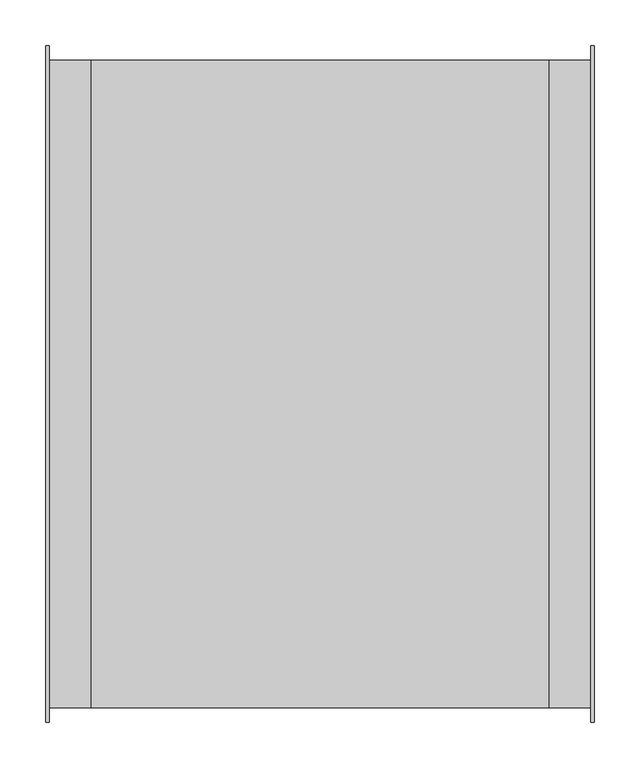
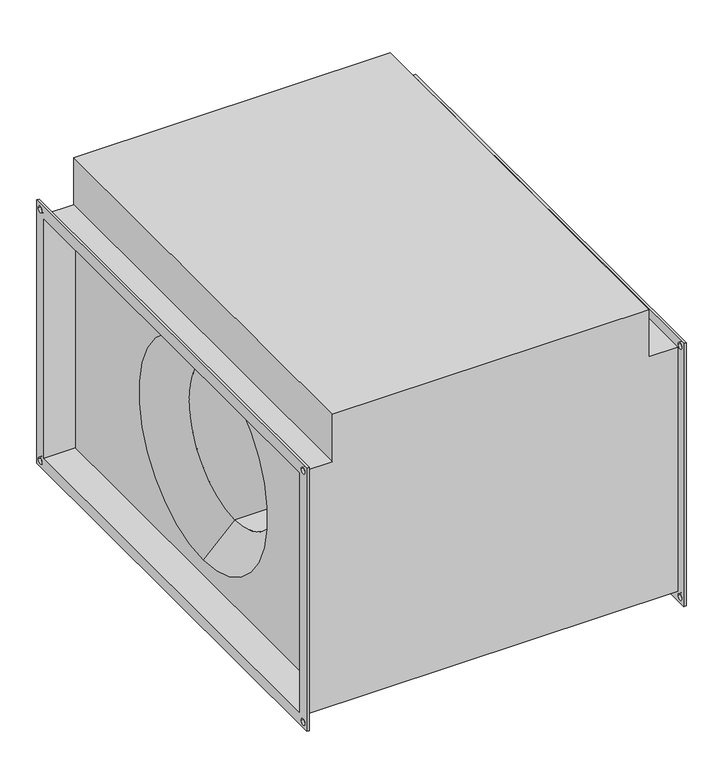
"""IFC4 building model written with IfcOpenShell, lengths in millimetres: proxy geometry, СВ_Вентилятор_КанальныйПрямоугольный_200-1000_SVPS : SVPS-700x400/35.2D."""

from ifc_helpers import new_model, si_unit, frame, origin, place, context, project, spatial, polyline, circle_curve, source, transform, mapped, element, save
from ifc_brep_helpers import plane_surface, revolved_surface, advanced_brep


def mechanical_equipment_2ee8b890(model_context):
    return source(origin(), model_context, "Body", "AdvancedBrep", [
        advanced_brep(
        [(-296.0, -354.0, 204.0), (-250.0, -354.0, 204.0), (-250.0, 354.0, 204.0), (-296.0, 354.0, 204.0), (250.0, 354.0, 283.0), (250.0, -354.0, 283.0), (250.0, -354.0, 204.0), (250.0, 354.0, 204.0), (250.0, 350.0, -200.0), (250.0, 350.0, 200.0), (250.0, -350.0, 200.0), (250.0, -350.0, -200.0), (250.0, 0.0, 175.0), (250.0, 0.0, -175.0), (-250.0, 350.0, 200.0), (-250.0, 350.0, -200.0), (-250.0, -350.0, -200.0), (-250.0, -350.0, 200.0), (-250.0, 0.0, -175.0), (-250.0, 0.0, 175.0), (-250.0, -354.0, 283.0), (-250.0, 354.0, 283.0), (-296.0, -354.0, -204.0), (296.0, -354.0, -204.0), (296.0, -354.0, 204.0), (-296.0, 354.0, -204.0), (296.0, 354.0, -204.0), (296.0, 354.0, 204.0), (200.0, 0.0, -125.0), (200.0, 0.0, 125.0), (-200.0, 0.0, 125.0), (-200.0, 0.0, -125.0), (-300.0, -370.0, 220.0), (-300.0, 370.0, 220.0), (-300.0, 370.0, -220.0), (-300.0, -370.0, -220.0), (-300.0, -350.0, 200.0), (-300.0, -350.0, -200.0), (-300.0, 350.0, -200.0), (-300.0, 350.0, 200.0), (-300.0, 355.0, 210.0), (-300.0, 365.0, 210.0), (-300.0, -365.0, 210.0), (-300.0, -355.0, 210.0), (-300.0, -365.0, -210.0), (-300.0, -355.0, -210.0), (-300.0, 355.0, -210.0), (-300.0, 365.0, -210.0), (-296.0, -370.0, 220.0), (-296.0, -370.0, -220.0), (-296.0, 370.0, -220.0), (-296.0, 370.0, 220.0), (-296.0, 365.0, 210.0), (-296.0, 355.0, 210.0), (-296.0, -355.0, 210.0), (-296.0, -365.0, 210.0), (-296.0, -355.0, -210.0), (-296.0, -365.0, -210.0), (-296.0, 365.0, -210.0), (-296.0, 355.0, -210.0), (296.0, 370.0, 220.0), (296.0, 370.0, -220.0), (296.0, -370.0, -220.0), (296.0, -370.0, 220.0), (296.0, 355.0, 210.0), (296.0, 365.0, 210.0), (296.0, -365.0, 210.0), (296.0, -355.0, 210.0), (296.0, -365.0, -210.0), (296.0, -355.0, -210.0), (296.0, 355.0, -210.0), (296.0, 365.0, -210.0), (300.0, 370.0, 220.0), (300.0, -370.0, 220.0), (300.0, -370.0, -220.0), (300.0, 370.0, -220.0), (300.0, 350.0, 200.0), (300.0, 350.0, -200.0), (300.0, -350.0, -200.0), (300.0, -350.0, 200.0), (300.0, 365.0, 210.0), (300.0, 355.0, 210.0), (300.0, -355.0, 210.0), (300.0, -365.0, 210.0), (300.0, -355.0, -210.0), (300.0, -365.0, -210.0), (300.0, 365.0, -210.0), (300.0, 355.0, -210.0)],
        [
            (0, 1),
            (1, 2),
            (2, 3),
            (3, 0),
            (4, 5),
            (5, 6),
            (6, 7),
            (7, 4),
            (8, 9),
            (9, 10),
            (10, 11),
            (11, 8),
            (12, 13, circle_curve(frame((250.0, 0.0, 0.0), z_axis=(-1.0, 0.0, 0.0), x_axis=(0.0, 0.0, 1.0)), 175.0)),
            (13, 12, circle_curve(frame((250.0, 0.0, 0.0), z_axis=(-1.0, 0.0, 0.0), x_axis=(0.0, 0.0, 1.0)), 175.0)),
            (14, 15),
            (15, 16),
            (16, 17),
            (17, 14),
            (18, 19, circle_curve(frame((-250.0, 0.0, 0.0), z_axis=(1.0, 0.0, 0.0), x_axis=(0.0, 0.0, 1.0)), 175.0)),
            (19, 18, circle_curve(frame((-250.0, 0.0, 0.0), z_axis=(1.0, 0.0, 0.0), x_axis=(0.0, 0.0, 1.0)), 175.0)),
            (20, 21),
            (21, 2),
            (1, 20),
            (5, 20),
            (0, 22),
            (22, 23),
            (23, 24),
            (24, 6),
            (22, 25),
            (25, 26),
            (26, 23),
            (21, 4),
            (7, 27),
            (27, 26),
            (25, 3),
            (24, 27),
            (28, 13),
            (12, 29),
            (29, 28, circle_curve(frame((200.0, 0.0, 0.0), z_axis=(-1.0, 0.0, 0.0), x_axis=(0.0, 0.0, 1.0)), 125.0)),
            (28, 29, circle_curve(frame((200.0, 0.0, 0.0), z_axis=(-1.0, 0.0, 0.0), x_axis=(0.0, 0.0, 1.0)), 125.0)),
            (29, 30),
            (30, 31, circle_curve(frame((-200.0, 0.0, 0.0), z_axis=(-1.0, 0.0, 0.0), x_axis=(0.0, 0.0, 1.0)), 125.0)),
            (31, 28),
            (31, 30, circle_curve(frame((-200.0, 0.0, 0.0), z_axis=(-1.0, 0.0, 0.0), x_axis=(0.0, 0.0, 1.0)), 125.0)),
            (30, 19),
            (18, 31),
            (32, 33),
            (33, 34),
            (34, 35),
            (35, 32),
            (36, 37),
            (37, 38),
            (38, 39),
            (39, 36),
            (40, 41, circle_curve(frame((-300.0, 360.0, 210.0), z_axis=(1.0, 0.0, 0.0), x_axis=(0.0, 1.0, 0.0)), 5.0)),
            (41, 40, circle_curve(frame((-300.0, 360.0, 210.0), z_axis=(1.0, 0.0, 0.0), x_axis=(0.0, 1.0, 0.0)), 5.0)),
            (42, 43, circle_curve(frame((-300.0, -360.0, 210.0), z_axis=(1.0, 0.0, 0.0), x_axis=(0.0, 1.0, 0.0)), 5.0)),
            (43, 42, circle_curve(frame((-300.0, -360.0, 210.0), z_axis=(1.0, 0.0, 0.0), x_axis=(0.0, 1.0, 0.0)), 5.0)),
            (44, 45, circle_curve(frame((-300.0, -360.0, -210.0), z_axis=(1.0, 0.0, 0.0), x_axis=(0.0, 1.0, 0.0)), 5.0)),
            (45, 44, circle_curve(frame((-300.0, -360.0, -210.0), z_axis=(1.0, 0.0, 0.0), x_axis=(0.0, 1.0, 0.0)), 5.0)),
            (46, 47, circle_curve(frame((-300.0, 360.0, -210.0), z_axis=(1.0, 0.0, 0.0), x_axis=(0.0, 1.0, 0.0)), 5.0)),
            (47, 46, circle_curve(frame((-300.0, 360.0, -210.0), z_axis=(1.0, 0.0, 0.0), x_axis=(0.0, 1.0, 0.0)), 5.0)),
            (48, 49),
            (49, 50),
            (50, 51),
            (51, 48),
            (52, 53, circle_curve(frame((-296.0, 360.0, 210.0), z_axis=(-1.0, 0.0, 0.0), x_axis=(0.0, 1.0, 0.0)), 5.0)),
            (53, 52, circle_curve(frame((-296.0, 360.0, 210.0), z_axis=(-1.0, 0.0, 0.0), x_axis=(0.0, 1.0, 0.0)), 5.0)),
            (54, 55, circle_curve(frame((-296.0, -360.0, 210.0), z_axis=(-1.0, 0.0, 0.0), x_axis=(0.0, 1.0, 0.0)), 5.0)),
            (55, 54, circle_curve(frame((-296.0, -360.0, 210.0), z_axis=(-1.0, 0.0, 0.0), x_axis=(0.0, 1.0, 0.0)), 5.0)),
            (56, 57, circle_curve(frame((-296.0, -360.0, -210.0), z_axis=(-1.0, 0.0, 0.0), x_axis=(0.0, 1.0, 0.0)), 5.0)),
            (57, 56, circle_curve(frame((-296.0, -360.0, -210.0), z_axis=(-1.0, 0.0, 0.0), x_axis=(0.0, 1.0, 0.0)), 5.0)),
            (58, 59, circle_curve(frame((-296.0, 360.0, -210.0), z_axis=(-1.0, 0.0, 0.0), x_axis=(0.0, 1.0, 0.0)), 5.0)),
            (59, 58, circle_curve(frame((-296.0, 360.0, -210.0), z_axis=(-1.0, 0.0, 0.0), x_axis=(0.0, 1.0, 0.0)), 5.0)),
            (35, 49),
            (48, 32),
            (34, 50),
            (33, 51),
            (60, 61),
            (61, 62),
            (62, 63),
            (63, 60),
            (64, 65, circle_curve(frame((296.0, 360.0, 210.0), z_axis=(1.0, 0.0, 0.0), x_axis=(0.0, 1.0, 0.0)), 5.0)),
            (65, 64, circle_curve(frame((296.0, 360.0, 210.0), z_axis=(1.0, 0.0, 0.0), x_axis=(0.0, 1.0, 0.0)), 5.0)),
            (66, 67, circle_curve(frame((296.0, -360.0, 210.0), z_axis=(1.0, 0.0, 0.0), x_axis=(0.0, 1.0, 0.0)), 5.0)),
            (67, 66, circle_curve(frame((296.0, -360.0, 210.0), z_axis=(1.0, 0.0, 0.0), x_axis=(0.0, 1.0, 0.0)), 5.0)),
            (68, 69, circle_curve(frame((296.0, -360.0, -210.0), z_axis=(1.0, 0.0, 0.0), x_axis=(0.0, 1.0, 0.0)), 5.0)),
            (69, 68, circle_curve(frame((296.0, -360.0, -210.0), z_axis=(1.0, 0.0, 0.0), x_axis=(0.0, 1.0, 0.0)), 5.0)),
            (70, 71, circle_curve(frame((296.0, 360.0, -210.0), z_axis=(1.0, 0.0, 0.0), x_axis=(0.0, 1.0, 0.0)), 5.0)),
            (71, 70, circle_curve(frame((296.0, 360.0, -210.0), z_axis=(1.0, 0.0, 0.0), x_axis=(0.0, 1.0, 0.0)), 5.0)),
            (72, 73),
            (73, 74),
            (74, 75),
            (75, 72),
            (76, 77),
            (77, 78),
            (78, 79),
            (79, 76),
            (80, 81, circle_curve(frame((300.0, 360.0, 210.0), z_axis=(-1.0, 0.0, 0.0), x_axis=(0.0, 1.0, 0.0)), 5.0)),
            (81, 80, circle_curve(frame((300.0, 360.0, 210.0), z_axis=(-1.0, 0.0, 0.0), x_axis=(0.0, 1.0, 0.0)), 5.0)),
            (82, 83, circle_curve(frame((300.0, -360.0, 210.0), z_axis=(-1.0, 0.0, 0.0), x_axis=(0.0, 1.0, 0.0)), 5.0)),
            (83, 82, circle_curve(frame((300.0, -360.0, 210.0), z_axis=(-1.0, 0.0, 0.0), x_axis=(0.0, 1.0, 0.0)), 5.0)),
            (84, 85, circle_curve(frame((300.0, -360.0, -210.0), z_axis=(-1.0, 0.0, 0.0), x_axis=(0.0, 1.0, 0.0)), 5.0)),
            (85, 84, circle_curve(frame((300.0, -360.0, -210.0), z_axis=(-1.0, 0.0, 0.0), x_axis=(0.0, 1.0, 0.0)), 5.0)),
            (86, 87, circle_curve(frame((300.0, 360.0, -210.0), z_axis=(-1.0, 0.0, 0.0), x_axis=(0.0, 1.0, 0.0)), 5.0)),
            (87, 86, circle_curve(frame((300.0, 360.0, -210.0), z_axis=(-1.0, 0.0, 0.0), x_axis=(0.0, 1.0, 0.0)), 5.0)),
            (63, 73),
            (72, 60),
            (62, 74),
            (61, 75),
            (39, 14),
            (17, 36),
            (38, 15),
            (37, 16),
            (76, 9),
            (8, 77),
            (11, 78),
            (10, 79),
            (40, 53),
            (52, 41),
            (64, 81),
            (80, 65),
            (42, 55),
            (54, 43),
            (66, 83),
            (82, 67),
            (44, 57),
            (56, 45),
            (68, 85),
            (84, 69),
            (46, 59),
            (58, 47),
            (70, 87),
            (86, 71),
        ],
        [
            plane_surface(frame((-250.0, 354.0, 204.0), z_axis=(0.0, 0.0, 1.0), x_axis=(-1.0, 0.0, 0.0))),
            plane_surface(frame((250.0, -354.0, 283.0), z_axis=(1.0, 0.0, 0.0), x_axis=(0.0, 0.0, -1.0))),
            plane_surface(frame((-250.0, -354.0, 283.0), z_axis=(-1.0, 0.0, 0.0), x_axis=(0.0, 0.0, 1.0))),
            plane_surface(frame((250.0, -354.0, 283.0), z_axis=(0.0, -1.0, 0.0), x_axis=(-1.0, 0.0, 0.0))),
            plane_surface(frame((250.0, -354.0, -204.0), z_axis=(0.0, 0.0, -1.0), x_axis=(-1.0, 0.0, 0.0))),
            plane_surface(frame((250.0, 354.0, -204.0), z_axis=(0.0, 1.0, 0.0), x_axis=(-1.0, 0.0, 0.0))),
            plane_surface(frame((250.0, 354.0, 283.0), z_axis=(0.0, 0.0, 1.0), x_axis=(-1.0, 0.0, 0.0))),
            plane_surface(frame((296.0, 354.0, 204.0), z_axis=(0.0, 0.0, 1.0), x_axis=(-1.0, 0.0, 0.0))),
            revolved_surface(polyline([(200.0, 0.0, 125.0), (250.0, 0.0, 175.0)]), (-687.0617897, 0.0, 0.0), (-1.0, 0.0, 0.0)),
            revolved_surface(polyline([(-200.0, 0.0, 125.0), (200.0, 0.0, 125.0)]), (-687.0617897, 0.0, 0.0), (-1.0, 0.0, 0.0)),
            revolved_surface(polyline([(-250.0, 0.0, 175.0), (-200.0, 0.0, 125.0)]), (-687.0617897, 0.0, 0.0), (-1.0, 0.0, 0.0)),
            plane_surface(frame((-300.0, -370.0, 220.0), z_axis=(-1.0, 0.0, 0.0), x_axis=(0.0, 0.0, 1.0))),
            plane_surface(frame((-296.0, -370.0, 220.0), z_axis=(1.0, 0.0, 0.0), x_axis=(0.0, 0.0, -1.0))),
            plane_surface(frame((-296.0, -370.0, 220.0), z_axis=(0.0, -1.0, 0.0), x_axis=(-1.0, 0.0, 0.0))),
            plane_surface(frame((-296.0, -370.0, -220.0), z_axis=(0.0, 0.0, -1.0), x_axis=(-1.0, 0.0, 0.0))),
            plane_surface(frame((-296.0, 370.0, -220.0), z_axis=(0.0, 1.0, 0.0), x_axis=(-1.0, 0.0, 0.0))),
            plane_surface(frame((-296.0, 370.0, 220.0), z_axis=(0.0, 0.0, 1.0), x_axis=(-1.0, 0.0, 0.0))),
            plane_surface(frame((296.0, 350.0, -200.0), z_axis=(-1.0, 0.0, 0.0), x_axis=(0.0, 0.0, 1.0))),
            plane_surface(frame((300.0, 350.0, -200.0), z_axis=(1.0, 0.0, 0.0), x_axis=(0.0, 0.0, -1.0))),
            plane_surface(frame((300.0, 370.0, 220.0), z_axis=(0.0, 0.0, 1.0), x_axis=(-1.0, 0.0, 0.0))),
            plane_surface(frame((300.0, -370.0, 220.0), z_axis=(0.0, -1.0, 0.0), x_axis=(-1.0, 0.0, 0.0))),
            plane_surface(frame((300.0, -370.0, -220.0), z_axis=(0.0, 0.0, -1.0), x_axis=(-1.0, 0.0, 0.0))),
            plane_surface(frame((300.0, 370.0, -220.0), z_axis=(0.0, 1.0, 0.0), x_axis=(-1.0, 0.0, 0.0))),
            plane_surface(frame((-296.0, -350.0, 200.0), z_axis=(0.0, 0.0, -1.0), x_axis=(-1.0, 0.0, 0.0))),
            plane_surface(frame((-296.0, 350.0, 200.0), z_axis=(0.0, -1.0, 0.0), x_axis=(-1.0, 0.0, 0.0))),
            plane_surface(frame((-296.0, 350.0, -200.0), z_axis=(0.0, 0.0, 1.0), x_axis=(-1.0, 0.0, 0.0))),
            plane_surface(frame((-296.0, -350.0, -200.0), z_axis=(0.0, 1.0, 0.0), x_axis=(-1.0, 0.0, 0.0))),
            plane_surface(frame((300.0, 350.0, 200.0), z_axis=(0.0, -1.0, 0.0), x_axis=(-1.0, 0.0, 0.0))),
            plane_surface(frame((300.0, 350.0, -200.0), z_axis=(0.0, 0.0, 1.0), x_axis=(-1.0, 0.0, 0.0))),
            plane_surface(frame((300.0, -350.0, -200.0), z_axis=(0.0, 1.0, 0.0), x_axis=(-1.0, 0.0, 0.0))),
            plane_surface(frame((300.0, -350.0, 200.0), z_axis=(0.0, 0.0, -1.0), x_axis=(-1.0, 0.0, 0.0))),
            revolved_surface(polyline([(-296.0, 365.0, 210.0), (-300.0, 365.0, 210.0)]), (-300.0, 360.0, 210.0), (1.0, 0.0, 0.0)),
            revolved_surface(polyline([(300.0, 365.0, 210.0), (296.0, 365.0, 210.0)]), (-300.0, 360.0, 210.0), (1.0, 0.0, 0.0)),
            revolved_surface(polyline([(-296.0, -355.0, 210.0), (-300.0, -355.0, 210.0)]), (0.0, -360.0, 210.0), (1.0, 0.0, 0.0)),
            revolved_surface(polyline([(300.0, -355.0, 210.0), (296.0, -355.0, 210.0)]), (0.0, -360.0, 210.0), (1.0, 0.0, 0.0)),
            revolved_surface(polyline([(-296.0, -355.0, -210.0), (-300.0, -355.0, -210.0)]), (0.0, -360.0, -210.0), (1.0, 0.0, 0.0)),
            revolved_surface(polyline([(300.0, -355.0, -210.0), (296.0, -355.0, -210.0)]), (0.0, -360.0, -210.0), (1.0, 0.0, 0.0)),
            revolved_surface(polyline([(-296.0, 365.0, -210.0), (-300.0, 365.0, -210.0)]), (0.0, 360.0, -210.0), (1.0, 0.0, 0.0)),
            revolved_surface(polyline([(300.0, 365.0, -210.0), (296.0, 365.0, -210.0)]), (0.0, 360.0, -210.0), (1.0, 0.0, 0.0)),
        ],
        [
            (0, [[1, 2, 3, 4]]),
            (1, [[5, 6, 7, 8]]),
            (1, [[9, 10, 11, 12], [13, 14]]),
            (2, [[15, 16, 17, 18], [19, 20]]),
            (2, [[21, 22, -2, 23]]),
            (3, [[24, -23, -1, 25, 26, 27, 28, -6]]),
            (4, [[-26, 29, 30, 31]]),
            (5, [[32, -8, 33, 34, -30, 35, -3, -22]]),
            (6, [[-5, -32, -21, -24]]),
            (7, [[-28, 36, -33, -7]]),
            (8, [[37, -13, 38, 39]]),
            (8, [[-37, 40, -38, -14]]),
            (9, [[-39, 41, 42, 43]]),
            (9, [[-40, -43, 44, -41]]),
            (10, [[-42, 45, -19, 46]]),
            (10, [[-44, -46, -20, -45]]),
            (11, [[47, 48, 49, 50], [51, 52, 53, 54], [55, 56], [57, 58], [59, 60], [61, 62]]),
            (12, [[63, 64, 65, 66], [-25, -4, -35, -29], [67, 68], [69, 70], [71, 72], [73, 74]]),
            (13, [[-50, 75, -63, 76]]),
            (14, [[-49, 77, -64, -75]]),
            (15, [[-48, 78, -65, -77]]),
            (16, [[-47, -76, -66, -78]]),
            (17, [[79, 80, 81, 82], [-27, -31, -34, -36], [83, 84], [85, 86], [87, 88], [89, 90]]),
            (18, [[91, 92, 93, 94], [95, 96, 97, 98], [99, 100], [101, 102], [103, 104], [105, 106]]),
            (19, [[-82, 107, -91, 108]]),
            (20, [[-81, 109, -92, -107]]),
            (21, [[-80, 110, -93, -109]]),
            (22, [[-79, -108, -94, -110]]),
            (23, [[-54, 111, -18, 112]]),
            (24, [[-53, 113, -15, -111]]),
            (25, [[-52, 114, -16, -113]]),
            (26, [[-51, -112, -17, -114]]),
            (27, [[-95, 115, -9, 116]]),
            (28, [[-96, -116, -12, 117]]),
            (29, [[-97, -117, -11, 118]]),
            (30, [[-115, -98, -118, -10]]),
            (31, [[119, -67, 120, -55]]),
            (32, [[121, -99, 122, -83]]),
            (31, [[-119, -56, -120, -68]]),
            (32, [[-121, -84, -122, -100]]),
            (33, [[123, -69, 124, -57]]),
            (34, [[125, -101, 126, -85]]),
            (33, [[-123, -58, -124, -70]]),
            (34, [[-125, -86, -126, -102]]),
            (35, [[127, -71, 128, -59]]),
            (36, [[129, -103, 130, -87]]),
            (35, [[-127, -60, -128, -72]]),
            (36, [[-129, -88, -130, -104]]),
            (37, [[131, -73, 132, -61]]),
            (38, [[133, -105, 134, -89]]),
            (37, [[-131, -62, -132, -74]]),
            (38, [[-133, -90, -134, -106]]),
        ],
    ),
    ])


if __name__ == "__main__":
    model = new_model("IFC4")
    model_context = context("Model", 3, world=origin())
    ifc_project = project(units=[si_unit("LENGTHUNIT", "METRE", prefix="MILLI")], contexts=[model_context])
    site = spatial("IfcSite", under=ifc_project)
    building = spatial("IfcBuilding", under=site)
    placement = place(None, origin())
    mechanical_equipment_shape = mechanical_equipment_2ee8b890(model_context)
    element("IfcBuildingElementProxy", 1, Name="СВ_Вентилятор_КанальныйПрямоугольный_200-1000_SVPS : SVPS-700x400/35.2D", ObjectType="СВ_Вентилятор_КанальныйПрямоугольный_200-1000_SVPS : SVPS-700x400/35.2D", at=placement, inside=building, context=model_context, shape_type="MappedRepresentation", body=[
        mapped(mechanical_equipment_shape, transform((0.0, 0.0, 0.0), x_axis=(1.0, 0.0, 0.0), y_axis=(0.0, 1.0, 0.0), z_axis=(0.0, 0.0, 1.0))),
    ])
    save(model, "model.ifc")
